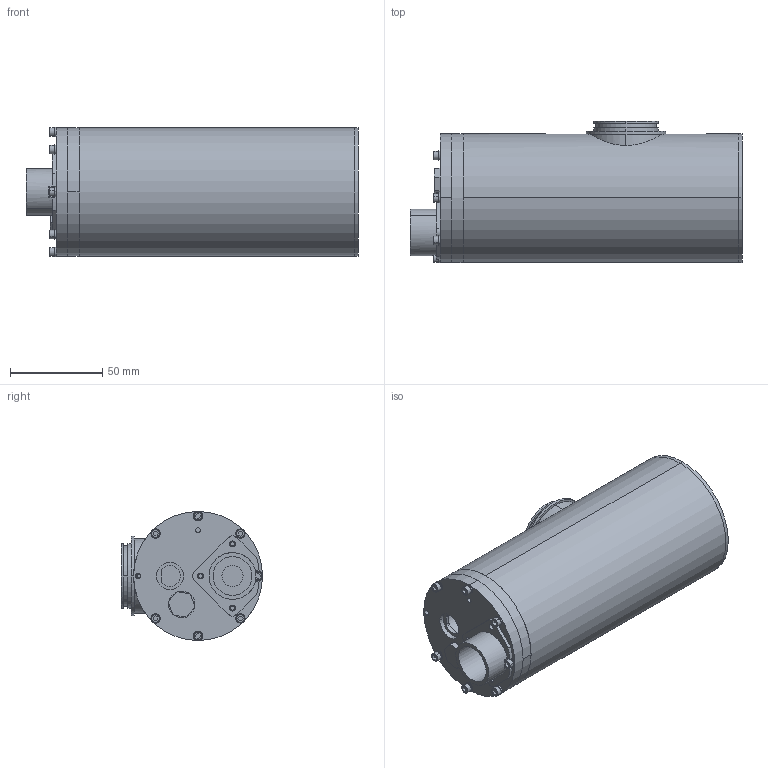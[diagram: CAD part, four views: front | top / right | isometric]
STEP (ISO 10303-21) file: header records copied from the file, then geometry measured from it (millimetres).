
FILE_DESCRIPTION (( 'STEP AP214' ), '1' );
FILE_NAME ('CAD3d.STEP', '2017-07-05T14:06:37', ( '' ), ( '' ), 'SwSTEP 2.0', 'SolidWorks 2014', '' );
FILE_SCHEMA (( 'AUTOMOTIVE_DESIGN' ));
Length unit declared in the file: millimetre
Products named in the file (1): CAD3d
Bounding box: 179.91 x 76.66 x 70.1 mm (x, y, z)
Surface area: 84072.5 mm2 (no closed solid volume)
Topology: 0 solids, 28 shells, 240 faces, 686 edges, 487 vertices
Faces by surface type: cylinder 113, plane 113, cone 14
Entity records: 11061 total; most frequent: CARTESIAN_POINT 1838, DIRECTION 1499, ORIENTED_EDGE 1152, EDGE_CURVE 686, AXIS2_PLACEMENT_3D 580, VERTEX_POINT 487, VECTOR 339, LINE 339
